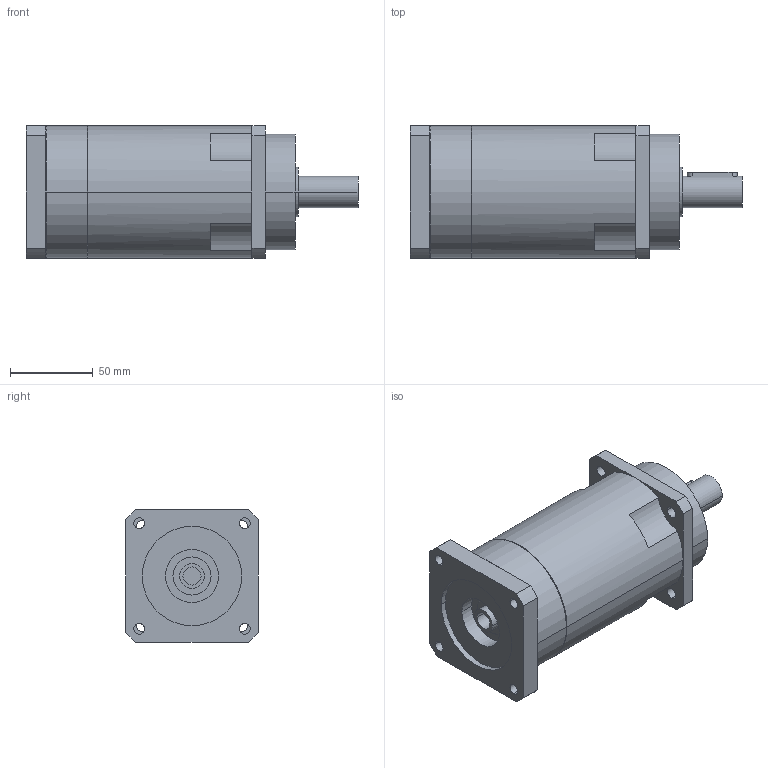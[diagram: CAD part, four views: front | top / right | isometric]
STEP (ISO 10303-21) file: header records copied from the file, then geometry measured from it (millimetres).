
FILE_DESCRIPTION(('CoCreate Modeling STEP Export'),'2;1');
FILE_NAME('GPR100_ig-48-64-80-100-120-144-180-216_19_B5_11_P19.stp','2014-08-26T11:53:04',(''),(''),'CoCreate Modeling STEP processor for AP214 (Solid Model)','CoCreate Modeling 16.00C 25-Feb-2009 (C) Parametric Technology GmbH','');
FILE_SCHEMA(('AUTOMOTIVE_DESIGN { 1 0 10303 214 1 1 1 1 }'));
Length unit declared in the file: millimetre
Products named in the file (2): GPR100_ig-48-64-80-100-120-144-180-216_19_B5_11_P19
Assembly tree (1 placements, depth 2):
  GPR100_ig-48-64-80-100-120-144-180-216_19_B5_11_P19
    GPR100_ig-48-64-80-100-120-144-180-216_19_B5_11_P19
Bounding box: 200.4 x 80 x 80 mm (x, y, z)
Volume: 802514.1 mm3; surface area: 64320.7 mm2
Topology: 1 solids, 1 shells, 101 faces, 287 edges, 197 vertices
Faces by surface type: cylinder 60, plane 35, cone 6
Entity records: 2996 total; most frequent: CARTESIAN_POINT 578, ORIENTED_EDGE 570, DIRECTION 426, EDGE_CURVE 285, VERTEX_POINT 197, AXIS2_PLACEMENT_3D 161, EDGE_LOOP 128, VECTOR 104
